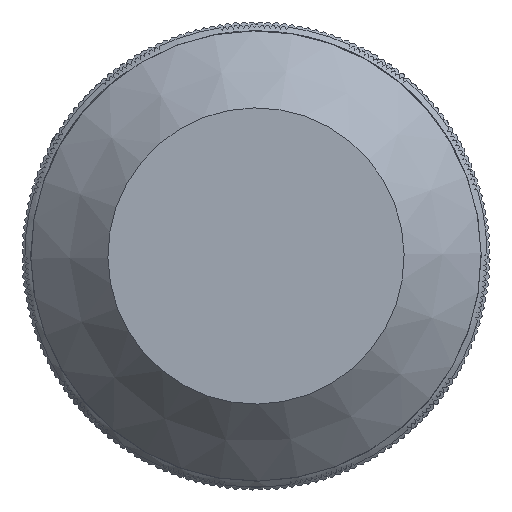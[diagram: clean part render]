
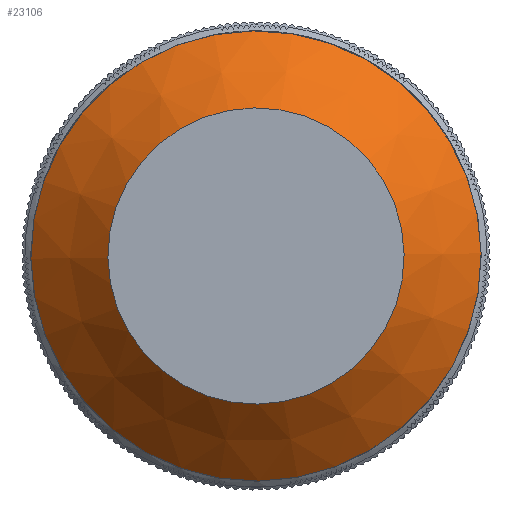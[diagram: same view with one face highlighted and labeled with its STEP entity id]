
A CAD part, left-side view. The second image highlights one B-rep face of the part: STEP entity #23106.
In plain terms, the highlighted conical face has half-angle 45 degrees and reference radius 31.5 mm.
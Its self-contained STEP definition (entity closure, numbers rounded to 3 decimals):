
#23079=CARTESIAN_POINT('',(-24.19,-15.041,0.));
#23080=DIRECTION('',(1.0,0.,0.));
#23081=DIRECTION('',(0.,0.49,-0.872));
#23082=AXIS2_PLACEMENT_3D('',#23079,#23080,#23081);
#23083=CONICAL_SURFACE('',#23082,31.5,45.);
#23084=CARTESIAN_POINT('',(-17.69,3.571,-33.13));
#23085=VERTEX_POINT('',#23084);
#23086=CARTESIAN_POINT('',(-17.69,-15.041,0.));
#23087=DIRECTION('',(1.,0.,0.));
#23088=DIRECTION('',(0.,0.49,-0.872));
#23089=AXIS2_PLACEMENT_3D('',#23086,#23087,#23088);
#23090=CIRCLE('',#23089,38.);
#23091=EDGE_CURVE('',#23085,#23085,#23090,.T.);
#23092=ORIENTED_EDGE('',*,*,#23091,.F.);
#23093=EDGE_LOOP('',(#23092));
#23094=FACE_OUTER_BOUND('',#23093,.T.);
#23095=CARTESIAN_POINT('',(-30.69,-2.797,-21.796));
#23096=VERTEX_POINT('',#23095);
#23097=CARTESIAN_POINT('',(-30.69,-15.041,0.));
#23098=DIRECTION('',(1.,0.,0.));
#23099=DIRECTION('',(0.,0.49,-0.872));
#23100=AXIS2_PLACEMENT_3D('',#23097,#23098,#23099);
#23101=CIRCLE('',#23100,25.0);
#23102=EDGE_CURVE('',#23096,#23096,#23101,.T.);
#23103=ORIENTED_EDGE('',*,*,#23102,.T.);
#23104=EDGE_LOOP('',(#23103));
#23105=FACE_BOUND('',#23104,.T.);
#23106=ADVANCED_FACE('',(#23094,#23105),#23083,.T.);
